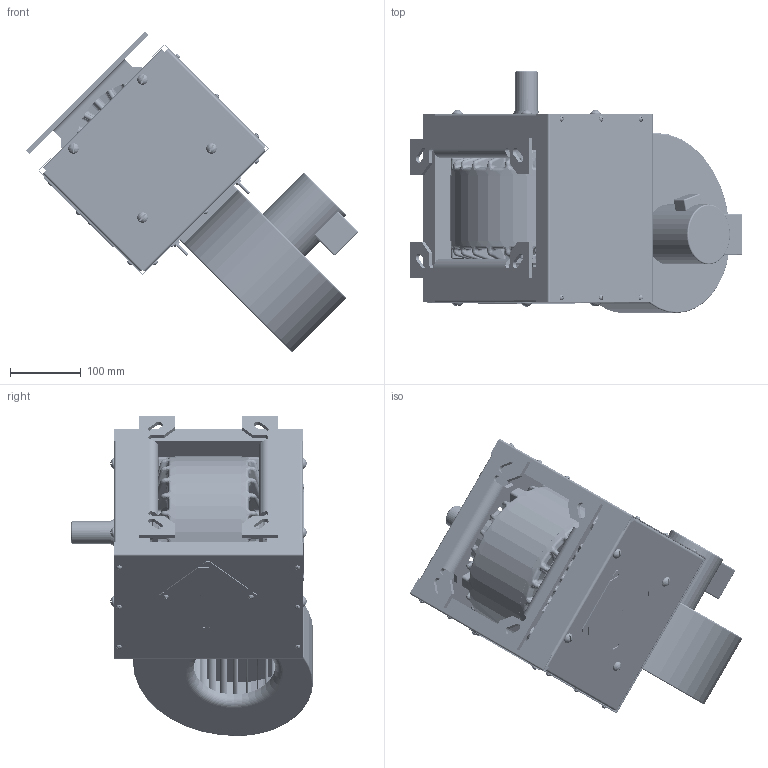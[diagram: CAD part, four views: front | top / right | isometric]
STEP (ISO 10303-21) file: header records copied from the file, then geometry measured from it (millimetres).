
FILE_DESCRIPTION(/* description */ ('STEP AP214'),/* implementation_level */ '2;1');
FILE_NAME(/* name */ '50MBA90B20_stp.step',/* time_stamp */ '2026-05-13T10:14:18-05:00',/* author */ (''),/* organization */ (''),/* preprocessor_version */ 'ST-DEVELOPER v20.1',/* originating_system */ 'Autodesk Translation Framework v15.8.0.0',/* authorisation */ '');
FILE_SCHEMA (('AUTOMOTIVE_DESIGN { 1 0 10303 214 3 1 1 }'));
Products named in the file (1): 50MBA90B20_asm_stp
Bounding box: 469.96 x 342.67 x 453.33 mm (x, y, z)
Volume: 4567940 mm3; surface area: 1716735.5 mm2
Topology: 5 solids, 13 shells, 3740 faces, 9268 edges, 5478 vertices
Faces by surface type: bspline 988, cylinder 976, plane 912, torus 452, cone 256, sphere 156
Full cylindrical faces by diameter (mm): 4.039 x2, 4.166 x28, 4.366 x4, 4.762 x18, 5.556 x20, 6.35 x2, 7.144 x4, 7.849 x20, 7.925 x8, 7.95 x1, 8.712 x1, 8.731 x8, 9.525 x8, 9.576 x8, 12.065 x1, 12.7 x2, 14.986 x8, 17.45 x1, 17.475 x1, 25.4 x1, 31.674 x1, 33.401 x2, 34.138 x1, 34.884 x2, 34.999 x2, 35 x1, 35.011 x1, 40.4 x4, 53.975 x1, 54.71 x2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
Entity records: 168677 total; most frequent: CARTESIAN_POINT 85962, ORIENTED_EDGE 18356, DIRECTION 16503, EDGE_CURVE 9178, AXIS2_PLACEMENT_3D 7035, VERTEX_POINT 5478, CIRCLE 4148, EDGE_LOOP 4050
